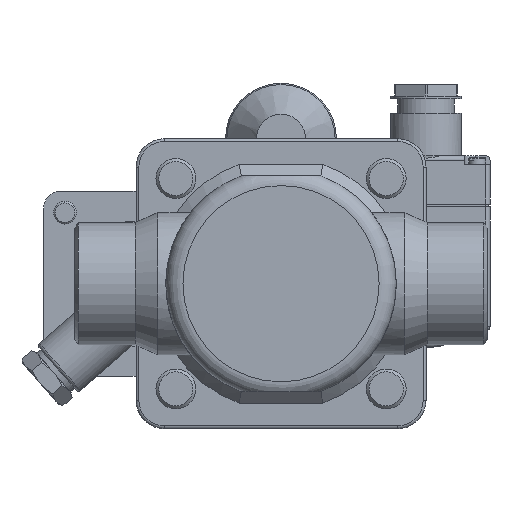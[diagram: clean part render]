
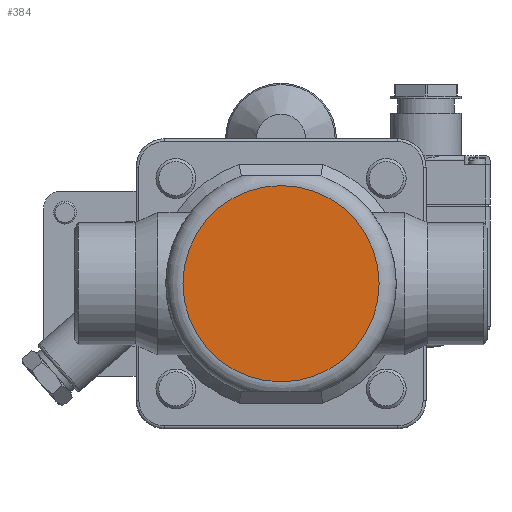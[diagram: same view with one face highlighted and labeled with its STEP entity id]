
A CAD part, front view. The second image highlights one B-rep face of the part: STEP entity #384.
In plain terms, the highlighted planar face has unit normal (0, -1, 0).
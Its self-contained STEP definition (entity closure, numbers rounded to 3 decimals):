
#384=ADVANCED_FACE('',(#1349),#1351,.T.);
#1349=FACE_OUTER_BOUND('',#1350,.T.);
#1350=EDGE_LOOP('',(#2063));
#1351=PLANE('',#1352);
#1352=AXIS2_PLACEMENT_3D('',#1353,#1354,#1355);
#1353=CARTESIAN_POINT('',(0.,-40.,0.));
#1354=DIRECTION('',(-0.,-1.,-0.));
#1355=DIRECTION('',(1.,0.,0.));
#2063=ORIENTED_EDGE('',*,*,#2555,.T.);
#2555=EDGE_CURVE('',#3139,#3139,#3141,.T.);
#3139=VERTEX_POINT('',#5865);
#3141=CIRCLE('',#5870,34.5);
#5865=CARTESIAN_POINT('',(34.5,-40.,0.));
#5870=AXIS2_PLACEMENT_3D('',#5871,#5872,#5873);
#5871=CARTESIAN_POINT('',(0.,-40.,0.));
#5872=DIRECTION('',(-0.,-1.,-0.));
#5873=DIRECTION('',(1.,0.,0.));
